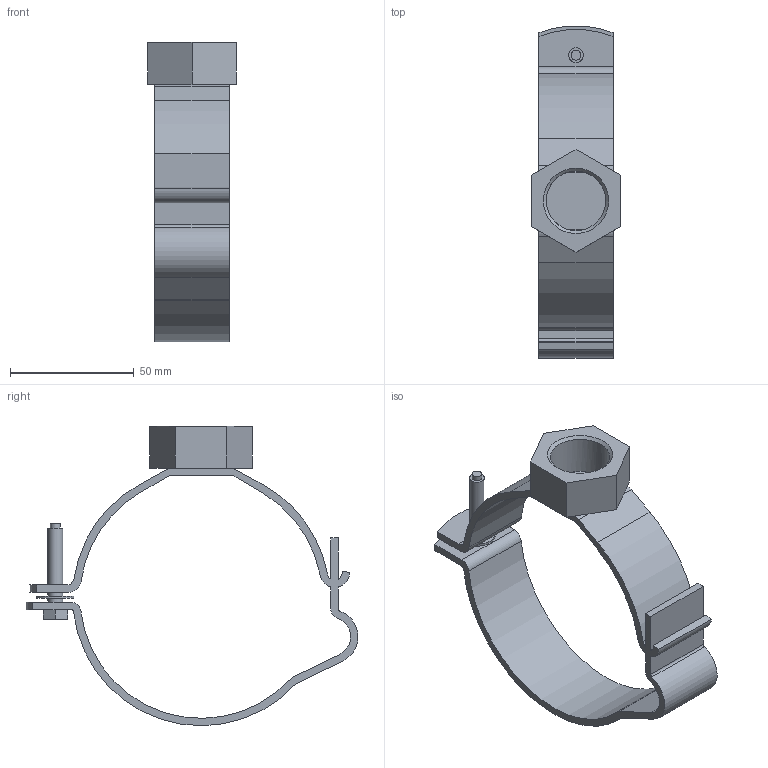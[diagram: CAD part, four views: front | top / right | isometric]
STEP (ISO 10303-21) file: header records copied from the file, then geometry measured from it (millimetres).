
FILE_DESCRIPTION( ( 'STEP AP214' ), '1' );
FILE_NAME( 'C:/Users/ilukic/Documents/ex/gebaudeentwasserung/pe/pipe bracket G3_4 adjustable/366842.stp', '2020-03-26T18:42:07', ( '' ), ( '' ), ' ', 'PARTsolutions', ' ' );
FILE_SCHEMA( ( 'AUTOMOTIVE_DESIGN { 1 0 10303 214 1 1 1 1 }' ) );
Length unit declared in the file: millimetre
Products named in the file (1): _366842
Bounding box: 36 x 134.37 x 121.2 mm (x, y, z)
Volume: 47224.4 mm3; surface area: 30821.1 mm2
Topology: 1 solids, 1 shells, 72 faces, 197 edges, 130 vertices
Faces by surface type: plane 39, cylinder 32, cone 1
Full cylindrical faces by diameter (mm): 4 x1, 6 x3, 15 x1, 24.117 x1
Entity records: 2848 total; most frequent: DIRECTION 402, CARTESIAN_POINT 389, ORIENTED_EDGE 376, EDGE_CURVE 188, AXIS2_PLACEMENT_3D 141, VERTEX_POINT 128, LINE 120, VECTOR 120
